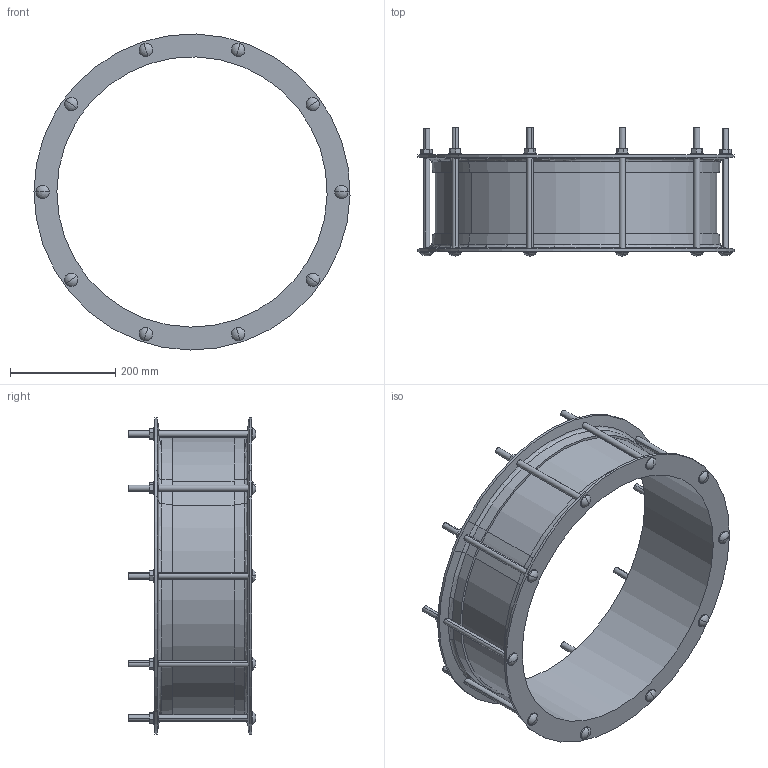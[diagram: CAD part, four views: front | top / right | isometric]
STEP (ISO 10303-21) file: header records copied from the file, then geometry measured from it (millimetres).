
FILE_DESCRIPTION((''),'2;1');
FILE_NAME('LO2_COUP_511','2018-12-06T',('mfairey'),('Glynwed Pipe Systems'),'CREO PARAMETRIC BY PTC INC, 2016130','CREO PARAMETRIC BY PTC INC, 2016130','');
FILE_SCHEMA(('CONFIG_CONTROL_DESIGN'));
Length unit declared in the file: millimetre
Products named in the file (1): LO2_COUP_511
Bounding box: 601.63 x 243.33 x 601.54 mm (x, y, z)
Volume: 4948465.2 mm3; surface area: 946591.1 mm2
Topology: 1 solids, 1 shells, 214 faces, 568 edges, 358 vertices
Faces by surface type: plane 94, cylinder 88, sphere 20, cone 8, torus 4
Entity records: 7450 total; most frequent: CARTESIAN_POINT 2140, ORIENTED_EDGE 1096, DIRECTION 1088, EDGE_CURVE 548, AXIS2_PLACEMENT_3D 406, VERTEX_POINT 358, VECTOR 276, LINE 276
